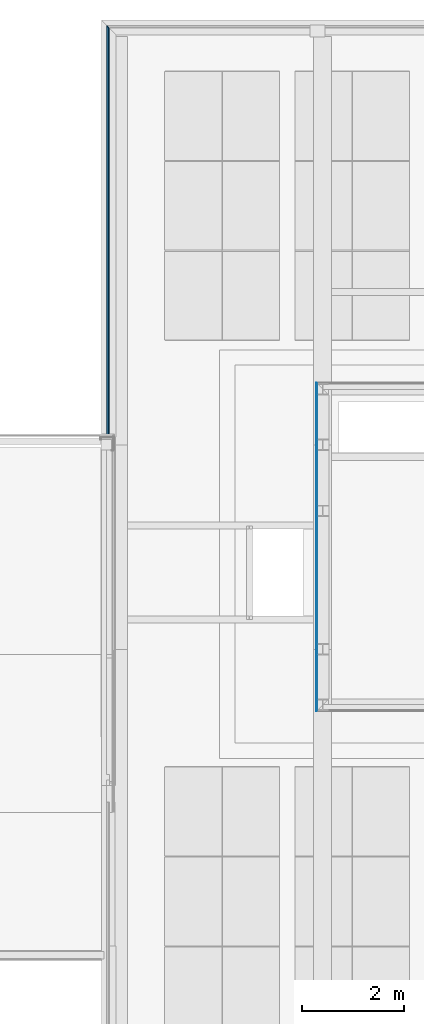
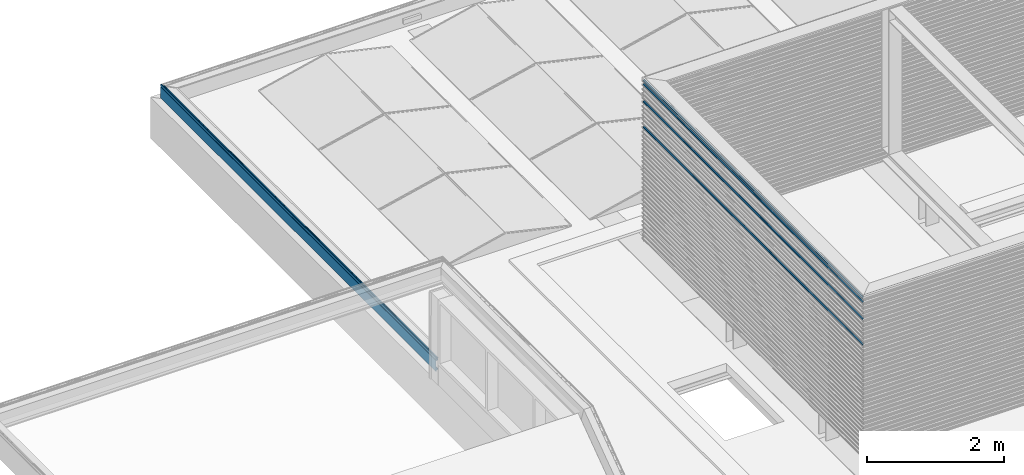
# One storey, part 28 of 63: 7 building element parts, 2 elements without a shape of their own.
"""IFC2X3 building model written with IfcOpenShell, lengths in millimetres."""

from ifc_helpers import new_model, entity, si_unit, converted_unit, derived_unit, money_unit, direction, frame, origin_with_axes, place, context, subcontext, project, spatial, faceted_brep, material, type_object, element, aggregate, save


model = new_model("IFC2X3")

# Units and contexts
model_context = context("Model", 3, precision=0.01, world=origin_with_axes(), true_north=direction((0.0, 1.0)))
body_context = subcontext(model_context, "Body", "Model", "MODEL_VIEW")
ifc_project = project(units=[si_unit("LENGTHUNIT", "METRE", prefix="MILLI"), si_unit("AREAUNIT", "SQUARE_METRE"), si_unit("VOLUMEUNIT", "CUBIC_METRE"), converted_unit("PLANEANGLEUNIT", "DEGREE", entity("IfcPlaneAngleMeasure", 0.0174532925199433), si_unit("PLANEANGLEUNIT", "RADIAN"), dimensions=[0, 0, 0, 0, 0, 0, 0]), money_unit("EUR"), converted_unit("TIMEUNIT", "Year", entity("IfcTimeMeasure", 31557600.0), si_unit("TIMEUNIT", "SECOND"), dimensions=[0, 0, 1, 0, 0, 0, 0]), si_unit("MASSUNIT", "GRAM", prefix="KILO"), si_unit("THERMODYNAMICTEMPERATUREUNIT", "DEGREE_CELSIUS"), si_unit("LUMINOUSINTENSITYUNIT", "LUMEN"), si_unit("ENERGYUNIT", "JOULE", prefix="MEGA"), derived_unit("THERMALCONDUCTANCEUNIT", [(si_unit("POWERUNIT", "WATT"), 1), (si_unit("LENGTHUNIT", "METRE"), -1), (si_unit("THERMODYNAMICTEMPERATUREUNIT", "KELVIN"), -1)]), derived_unit("SPECIFICHEATCAPACITYUNIT", [(si_unit("ENERGYUNIT", "JOULE"), 1), (si_unit("MASSUNIT", "GRAM", prefix="KILO"), -1), (si_unit("THERMODYNAMICTEMPERATUREUNIT", "KELVIN"), -1)]), derived_unit("MASSDENSITYUNIT", [(si_unit("MASSUNIT", "GRAM", prefix="KILO"), 1), (si_unit("VOLUMEUNIT", "CUBIC_METRE"), -1)])], contexts=[model_context])

# Site, building, storey
site_placement = place(None, origin_with_axes())
site = spatial("IfcSite", under=ifc_project, at=site_placement, Name="<site naam>", CompositionType="ELEMENT")
building_placement = place(site_placement, origin_with_axes())
building = spatial("IfcBuilding", under=site, at=building_placement, Name="<Naam gebouw>", CompositionType="ELEMENT")
storey_placement = place(building_placement, frame((0.0, 0.0, 12770.0), z_axis=(0.0, 0.0, 1.0), x_axis=(1.0, 0.0, 0.0)))
storey = spatial("IfcBuildingStorey", under=building, at=storey_placement, Name="04 4e verdieping", CompositionType="ELEMENT", Elevation=12770.0)

# Beam, building element parts
beam_type = type_object("IfcBeamType", Name="Aluminium daktrim 45 x 250", PredefinedType="BEAM")
beam_placement = place(storey_placement, frame((11665.00000242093, 20324.99999757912, -14.55215314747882), z_axis=(0.0, 0.0, 1.0), x_axis=(-1.0, 0.0, 0.0)))
beam = element("IfcBeam", 1, at=beam_placement, inside=storey, type_object=beam_type, Name="47_Balk_Aluminium", ObjectType="BEAM")
ifc_material_1 = material(Name="aluminium")
building_element_part_1_placement = place(beam_placement, origin_with_axes())
building_element_part_1 = element("IfcBuildingElementPart", 2, at=building_element_part_1_placement, material=ifc_material_1, Name="aluminium", context=body_context, shape_type="Brep", body=[
    faceted_brep([(-143.0058874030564, 8164.999997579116, 241.8720983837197), (-111.1979101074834, 8164.999997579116, 237.7678423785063), (-111.1979101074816, 111.1979101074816, 237.7678423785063), (-143.0058874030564, 143.0058874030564, 241.8720983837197), (-143.0058874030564, 8164.999997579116, 253.0654661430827), (-141.8058874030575, 8164.999997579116, 253.0654661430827), (-141.8058874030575, 8164.999997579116, 243.1686919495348), (-110.0058874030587, 8164.999997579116, 239.0654661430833), (-110.0058874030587, 8164.999997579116, 44.56563661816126), (-115.205887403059, 8164.999997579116, 44.56563661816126), (-115.205887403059, 8164.999997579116, 61.56563661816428), (-114.0058874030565, 8164.999997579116, 61.56563661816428), (-114.0058874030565, 8164.999997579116, 45.7656366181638), (-111.1979101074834, 8164.999997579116, 45.7656366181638), (-111.1979101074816, 111.1979101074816, 45.7656366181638), (-114.0058874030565, 114.0058874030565, 45.7656366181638), (-114.0058874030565, 114.0058874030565, 61.56563661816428), (-115.205887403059, 115.2058874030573, 61.56563661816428), (-115.205887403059, 115.2058874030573, 44.56563661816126), (-110.0058874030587, 110.0058874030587, 44.56563661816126), (-110.0058874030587, 110.0058874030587, 239.0654661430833), (-141.8058874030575, 141.8058874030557, 243.1686919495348), (-141.8058874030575, 141.8058874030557, 253.0654661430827), (-143.0058874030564, 143.0058874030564, 253.0654661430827)], [[[0, 1, 2, 3]], [[0, 4, 5, 6, 7, 8, 9, 10, 11, 12, 13, 1]], [[1, 13, 14, 2]], [[3, 2, 14, 15, 16, 17, 18, 19, 20, 21, 22, 23]], [[4, 0, 3, 23]], [[5, 4, 23, 22]], [[6, 5, 22, 21]], [[7, 6, 21, 20]], [[8, 7, 20, 19]], [[9, 8, 19, 18]], [[10, 9, 18, 17]], [[11, 10, 17, 16]], [[12, 11, 16, 15]], [[13, 12, 15, 14]]]),
])
building_element_part_2_placement = place(beam_placement, origin_with_axes())
building_element_part_2 = element("IfcBuildingElementPart", 3, at=building_element_part_2_placement, material=ifc_material_1, Name="aluminium", context=body_context, shape_type="Brep", body=[
    faceted_brep([(-112.0058939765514, 8164.999997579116, 49.56563034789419), (-112.0058939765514, 8164.999997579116, 69.56564503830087), (-112.0058939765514, 112.0058939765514, 69.56564503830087), (-112.0058939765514, 112.0058939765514, 49.56563034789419), (-113.2058874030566, 8164.999997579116, 49.56563034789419), (-113.2058874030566, 8164.999997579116, 68.55872432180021), (-145.0058874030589, 8164.999997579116, 74.16592230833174), (-145.0058874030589, 8164.999997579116, 89.56564503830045), (-143.8058874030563, 8164.999997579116, 89.56564503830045), (-143.8058874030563, 8164.999997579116, 75.17284186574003), (-143.8058874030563, 143.8058874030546, 75.17284186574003), (-143.8058874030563, 143.8058874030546, 89.56564503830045), (-145.0058874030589, 145.0058874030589, 89.56564503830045), (-145.0058874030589, 145.0058874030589, 74.16592230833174), (-113.2058874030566, 113.2058874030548, 68.55872432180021), (-113.2058874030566, 113.2058874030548, 49.56563034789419)], [[[0, 1, 2, 3]], [[0, 4, 5, 6, 7, 8, 9, 1]], [[1, 9, 10, 2]], [[3, 2, 10, 11, 12, 13, 14, 15]], [[4, 0, 3, 15]], [[5, 4, 15, 14]], [[6, 5, 14, 13]], [[7, 6, 13, 12]], [[8, 7, 12, 11]], [[9, 8, 11, 10]]]),
])
building_element_part_3_placement = place(beam_placement, origin_with_axes())
building_element_part_3 = element("IfcBuildingElementPart", 4, at=building_element_part_3_placement, material=ifc_material_1, Name="aluminium", context=body_context, shape_type="Brep", body=[
    faceted_brep([(-121.4991945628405, 8164.999997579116, 294.0656451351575), (-122.2068758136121, 8164.999997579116, 293.7721760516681), (-122.2068758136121, 122.2068758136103, 293.7721760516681), (-121.4991945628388, 121.4991945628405, 294.0656451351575), (-110.999194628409, 8164.999997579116, 294.0656451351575), (-110.2920878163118, 8164.999997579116, 293.7727519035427), (-109.999194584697, 8164.999997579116, 293.0656450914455), (-109.999194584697, 8164.999997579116, 250.0656451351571), (-110.2920878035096, 8164.999997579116, 249.3585383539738), (-110.9991945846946, 8164.999997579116, 249.0656451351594), (-111.4991731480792, 8164.999997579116, 249.1996073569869), (-117.6977781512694, 8164.999997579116, 252.7781690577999), (-117.9774779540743, 8164.999997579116, 253.1426342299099), (-117.9175736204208, 8164.999997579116, 253.598132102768), (-117.5531500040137, 8164.999997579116, 253.8778860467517), (-117.0976432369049, 8164.999997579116, 253.8180493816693), (-113.8976320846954, 8164.999997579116, 251.9718951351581), (-113.8976320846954, 8164.999997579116, 252.565645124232), (-113.7511854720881, 8164.999997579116, 252.9191985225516), (-113.3976320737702, 8164.999997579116, 253.0656451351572), (-113.1984133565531, 8164.999997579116, 253.0656451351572), (-112.8448599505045, 8164.999997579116, 252.9191985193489), (-112.6984133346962, 8164.999997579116, 252.5656451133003), (-112.6984133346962, 8164.999997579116, 251.278535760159), (-111.9489165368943, 8164.999997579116, 250.8452329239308), (-111.6116899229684, 8164.999997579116, 250.7856033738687), (-111.3150643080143, 8164.999997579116, 250.9567486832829), (-111.1979101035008, 8164.999997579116, 251.278544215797), (-111.1984133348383, 8164.999997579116, 281.0656535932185), (-111.3448629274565, 8164.999997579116, 281.419201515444), (-111.6984133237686, 8164.999997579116, 281.5656451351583), (-112.1984133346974, 8164.999997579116, 281.5656451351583), (-112.5519667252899, 8164.999997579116, 281.4191985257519), (-112.6984133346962, 8164.999997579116, 281.0656451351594), (-112.6984133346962, 8164.999997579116, 279.5656451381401), (-112.8448599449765, 8164.999997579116, 279.212091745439), (-113.1984133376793, 8164.999997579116, 279.065645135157), (-114.9718508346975, 8164.999997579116, 279.065645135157), (-120.1773366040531, 8164.999997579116, 275.7461395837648), (-120.3116945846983, 8164.999997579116, 275.4250201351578), (-120.5695070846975, 8164.999997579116, 275.3156451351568), (-120.8898195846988, 8164.999997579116, 275.448457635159), (-121.5401955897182, 8164.999997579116, 275.2060759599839), (-121.6945070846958, 8164.999997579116, 274.897676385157), (-121.9640383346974, 8164.999997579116, 274.8078326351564), (-122.2726320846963, 8164.999997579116, 274.9640826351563), (-128.1981216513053, 8164.999997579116, 274.066030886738), (-154.6486035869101, 8164.999997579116, 274.0656451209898), (-154.8951277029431, 8164.999997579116, 274.1677553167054), (-154.9972414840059, 8164.999997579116, 274.4142779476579), (-154.8947842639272, 8164.999997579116, 274.6611444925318), (-154.6476320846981, 8164.999997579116, 274.7629107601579), (-149.9991945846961, 8164.999997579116, 275.2648638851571), (-149.6984133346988, 8164.999997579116, 275.565645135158), (-147.2999758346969, 8164.999997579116, 275.565645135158), (-146.999194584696, 8164.999997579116, 275.2648638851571), (-143.9991945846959, 8164.999997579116, 275.2648638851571), (-143.6984133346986, 8164.999997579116, 275.565645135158), (-141.2999758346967, 8164.999997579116, 275.565645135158), (-140.9991945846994, 8164.999997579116, 275.2648638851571), (-137.9991945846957, 8164.999997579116, 275.2648638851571), (-137.6984133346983, 8164.999997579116, 275.565645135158), (-135.2999758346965, 8164.999997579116, 275.565645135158), (-134.9991945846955, 8164.999997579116, 275.2648638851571), (-131.9991945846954, 8164.999997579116, 275.2648638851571), (-131.6984133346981, 8164.999997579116, 275.565645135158), (-129.2999758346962, 8164.999997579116, 275.565645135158), (-128.9991945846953, 8164.999997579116, 275.2648638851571), (-128.1984107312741, 8164.999997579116, 275.2648638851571), (-120.0158638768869, 8164.999997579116, 277.1388822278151), (-113.4645529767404, 8164.999997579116, 282.3873432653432), (-112.6841977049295, 8164.999997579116, 282.7641787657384), (-112.19700300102, 8164.999997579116, 282.7648658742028), (-111.4908083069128, 8164.999997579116, 283.0582564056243), (-111.1984133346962, 8164.999997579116, 283.7648638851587), (-111.1984133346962, 8164.999997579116, 292.3664263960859), (-111.3448599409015, 8164.999997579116, 292.719979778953), (-111.6984133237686, 8164.999997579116, 292.8664263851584), (-120.7999758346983, 8164.999997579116, 292.8664263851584), (-121.1535292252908, 8164.999997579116, 292.7199797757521), (-121.2999758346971, 8164.999997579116, 292.3664263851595), (-121.2999758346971, 8164.999997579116, 290.6652544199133), (-121.4748532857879, 8164.999997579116, 290.2428198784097), (-121.897145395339, 8164.999997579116, 290.0675987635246), (-122.3197220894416, 8164.999997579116, 290.2421324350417), (-122.4952867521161, 8164.999997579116, 290.6642818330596), (-122.4991919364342, 8164.999997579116, 293.0640177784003), (-122.4991919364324, 122.4991919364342, 293.0640177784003), (-122.4952867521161, 122.4952867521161, 290.6642818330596), (-122.3197220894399, 122.3197220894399, 290.2421324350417), (-121.8971453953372, 121.8971453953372, 290.0675987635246), (-121.4748532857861, 121.4748532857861, 290.2428198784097), (-121.2999758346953, 121.2999758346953, 290.6652544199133), (-121.2999758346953, 121.2999758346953, 292.3664263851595), (-121.153529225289, 121.153529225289, 292.7199797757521), (-120.7999758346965, 120.7999758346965, 292.8664263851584), (-111.6984133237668, 111.6984133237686, 292.8664263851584), (-111.3448599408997, 111.3448599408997, 292.719979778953), (-111.1984133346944, 111.1984133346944, 292.3664263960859), (-111.1984133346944, 111.1984133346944, 283.7648638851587), (-111.490808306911, 111.490808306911, 283.0582564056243), (-112.1970030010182, 112.1970030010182, 282.7648658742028), (-112.6841977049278, 112.6841977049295, 282.7641787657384), (-113.4645529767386, 113.4645529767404, 282.3873432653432), (-120.0158638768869, 120.0158638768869, 277.1388822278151), (-128.1984107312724, 128.1984107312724, 275.2648638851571), (-128.9991945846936, 128.9991945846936, 275.2648638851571), (-129.2999758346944, 129.2999758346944, 275.565645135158), (-131.6984133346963, 131.6984133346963, 275.565645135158), (-131.9991945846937, 131.9991945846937, 275.2648638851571), (-134.9991945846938, 134.9991945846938, 275.2648638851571), (-135.2999758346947, 135.2999758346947, 275.565645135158), (-137.6984133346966, 137.6984133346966, 275.565645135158), (-137.9991945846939, 137.9991945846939, 275.2648638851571), (-140.9991945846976, 140.9991945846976, 275.2648638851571), (-141.2999758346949, 141.2999758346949, 275.565645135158), (-143.6984133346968, 143.6984133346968, 275.565645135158), (-143.9991945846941, 143.9991945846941, 275.2648638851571), (-146.9991945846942, 146.9991945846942, 275.2648638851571), (-147.2999758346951, 147.2999758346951, 275.565645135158), (-149.698413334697, 149.698413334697, 275.565645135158), (-149.9991945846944, 149.9991945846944, 275.2648638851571), (-154.6476320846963, 154.6476320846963, 274.7629107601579), (-154.8947842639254, 154.8947842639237, 274.6611444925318), (-154.9972414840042, 154.9972414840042, 274.4142779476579), (-154.8951277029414, 154.8951277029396, 274.1677553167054), (-154.6486035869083, 154.6486035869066, 274.0656451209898), (-128.1981216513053, 128.1981216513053, 274.066030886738), (-122.2726320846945, 122.2726320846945, 274.9640826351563), (-121.9640383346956, 121.9640383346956, 274.8078326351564), (-121.694507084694, 121.694507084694, 274.897676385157), (-121.5401955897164, 121.5401955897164, 275.2060759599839), (-120.889819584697, 120.889819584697, 275.448457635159), (-120.5695070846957, 120.5695070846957, 275.3156451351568), (-120.3116945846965, 120.3116945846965, 275.4250201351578), (-120.1773366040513, 120.1773366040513, 275.7461395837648), (-114.9718508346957, 114.9718508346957, 279.065645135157), (-113.1984133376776, 113.1984133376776, 279.065645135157), (-112.8448599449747, 112.8448599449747, 279.212091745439), (-112.6984133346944, 112.6984133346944, 279.5656451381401), (-112.6984133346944, 112.6984133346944, 281.0656451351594), (-112.5519667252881, 112.5519667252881, 281.4191985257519), (-112.1984133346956, 112.1984133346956, 281.5656451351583), (-111.6984133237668, 111.6984133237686, 281.5656451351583), (-111.3448629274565, 111.3448629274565, 281.419201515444), (-111.1984133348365, 111.1984133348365, 281.0656535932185), (-111.1979101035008, 111.1979101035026, 251.278544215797), (-111.3150643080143, 111.3150643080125, 250.9567486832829), (-111.6116899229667, 111.6116899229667, 250.7856033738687), (-111.9489165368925, 111.9489165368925, 250.8452329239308), (-112.6984133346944, 112.6984133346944, 251.278535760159), (-112.6984133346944, 112.6984133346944, 252.5656451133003), (-112.8448599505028, 112.8448599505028, 252.9191985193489), (-113.1984133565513, 113.1984133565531, 253.0656451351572), (-113.3976320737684, 113.3976320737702, 253.0656451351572), (-113.7511854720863, 113.7511854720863, 252.9191985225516), (-113.8976320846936, 113.8976320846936, 252.565645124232), (-113.8976320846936, 113.8976320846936, 251.9718951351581), (-117.0976432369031, 117.0976432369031, 253.8180493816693), (-117.5531500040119, 117.5531500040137, 253.8778860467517), (-117.917573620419, 117.9175736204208, 253.598132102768), (-117.9774779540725, 117.9774779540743, 253.1426342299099), (-117.6977781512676, 117.6977781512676, 252.7781690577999), (-111.4991731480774, 111.4991731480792, 249.1996073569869), (-110.9991945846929, 110.9991945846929, 249.0656451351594), (-110.2920878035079, 110.2920878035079, 249.3585383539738), (-109.9991945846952, 109.9991945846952, 250.0656451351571), (-109.9991945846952, 109.9991945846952, 293.0656450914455), (-110.2920878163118, 110.2920878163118, 293.7727519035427), (-110.9991946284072, 110.999194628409, 294.0656451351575)], [[[0, 1, 2, 3]], [[0, 4, 5, 6, 7, 8, 9, 10, 11, 12, 13, 14, 15, 16, 17, 18, 19, 20, 21, 22, 23, 24, 25, 26, 27, 28, 29, 30, 31, 32, 33, 34, 35, 36, 37, 38, 39, 40, 41, 42, 43, 44, 45, 46, 47, 48, 49, 50, 51, 52, 53, 54, 55, 56, 57, 58, 59, 60, 61, 62, 63, 64, 65, 66, 67, 68, 69, 70, 71, 72, 73, 74, 75, 76, 77, 78, 79, 80, 81, 82, 83, 84, 85, 86, 1]], [[1, 86, 87, 2]], [[3, 2, 87, 88, 89, 90, 91, 92, 93, 94, 95, 96, 97, 98, 99, 100, 101, 102, 103, 104, 105, 106, 107, 108, 109, 110, 111, 112, 113, 114, 115, 116, 117, 118, 119, 120, 121, 122, 123, 124, 125, 126, 127, 128, 129, 130, 131, 132, 133, 134, 135, 136, 137, 138, 139, 140, 141, 142, 143, 144, 145, 146, 147, 148, 149, 150, 151, 152, 153, 154, 155, 156, 157, 158, 159, 160, 161, 162, 163, 164, 165, 166, 167, 168, 169]], [[4, 0, 3, 169]], [[5, 4, 169, 168]], [[6, 5, 168, 167]], [[7, 6, 167, 166]], [[8, 7, 166, 165]], [[9, 8, 165, 164]], [[10, 9, 164, 163]], [[11, 10, 163, 162]], [[12, 11, 162, 161]], [[13, 12, 161, 160]], [[14, 13, 160, 159]], [[15, 14, 159, 158]], [[16, 15, 158, 157]], [[17, 16, 157, 156]], [[18, 17, 156, 155]], [[19, 18, 155, 154]], [[20, 19, 154, 153]], [[21, 20, 153, 152]], [[22, 21, 152, 151]], [[23, 22, 151, 150]], [[24, 23, 150, 149]], [[25, 24, 149, 148]], [[26, 25, 148, 147]], [[27, 26, 147, 146]], [[28, 27, 146, 145]], [[29, 28, 145, 144]], [[30, 29, 144, 143]], [[31, 30, 143, 142]], [[32, 31, 142, 141]], [[33, 32, 141, 140]], [[34, 33, 140, 139]], [[35, 34, 139, 138]], [[36, 35, 138, 137]], [[37, 36, 137, 136]], [[38, 37, 136, 135]], [[39, 38, 135, 134]], [[40, 39, 134, 133]], [[41, 40, 133, 132]], [[42, 41, 132, 131]], [[43, 42, 131, 130]], [[44, 43, 130, 129]], [[45, 44, 129, 128]], [[46, 45, 128, 127]], [[47, 46, 127, 126]], [[48, 47, 126, 125]], [[49, 48, 125, 124]], [[50, 49, 124, 123]], [[51, 50, 123, 122]], [[52, 51, 122, 121]], [[53, 52, 121, 120]], [[54, 53, 120, 119]], [[55, 54, 119, 118]], [[56, 55, 118, 117]], [[57, 56, 117, 116]], [[58, 57, 116, 115]], [[59, 58, 115, 114]], [[60, 59, 114, 113]], [[61, 60, 113, 112]], [[62, 61, 112, 111]], [[63, 62, 111, 110]], [[64, 63, 110, 109]], [[65, 64, 109, 108]], [[66, 65, 108, 107]], [[67, 66, 107, 106]], [[68, 67, 106, 105]], [[69, 68, 105, 104]], [[70, 69, 104, 103]], [[71, 70, 103, 102]], [[72, 71, 102, 101]], [[73, 72, 101, 100]], [[74, 73, 100, 99]], [[75, 74, 99, 98]], [[76, 75, 98, 97]], [[77, 76, 97, 96]], [[78, 77, 96, 95]], [[79, 78, 95, 94]], [[80, 79, 94, 93]], [[81, 80, 93, 92]], [[82, 81, 92, 91]], [[83, 82, 91, 90]], [[84, 83, 90, 89]], [[85, 84, 89, 88]], [[86, 85, 88, 87]]]),
])
aggregate(beam, [building_element_part_1, building_element_part_2, building_element_part_3])

# Wall, building element parts
wall_type = type_object("IfcWallType", Name="Gevelbeplating golf 18 x 2900", PredefinedType="NOTDEFINED")
wall_placement = place(storey_placement, frame((15871.99992141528, 13218.00009009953, 299.9552842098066), z_axis=(0.0, 0.0, 1.0), x_axis=(0.0, -1.0, 0.0)))
wall = element("IfcWall", 5, at=wall_placement, inside=storey, type_object=wall_type, Name="47_Binnenwand_Gevelbeplating")
ifc_material_2 = material(Name="gevelafwerking type 3 - Aluminium RAL1036")
building_element_part_4_placement = place(wall_placement, origin_with_axes())
building_element_part_4 = element("IfcBuildingElementPart", 6, at=building_element_part_4_placement, material=ifc_material_2, Name="gevelafwerking type 3 - Aluminium RAL1036", context=body_context, shape_type="Brep", body=[
    faceted_brep([(15.62919381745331, 15.62919381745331, 2497.3155113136), (17.99993094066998, 17.99993094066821, 2507.999999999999), (6418.000237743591, 17.99993094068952, 2507.999999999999), (6420.37097486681, 15.62919381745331, 2497.3155113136), (17.99993094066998, 16.99992855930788, 2507.999999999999), (15.62919381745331, 14.54414811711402, 2497.3155113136), (15.69993608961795, 14.77512803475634, 2497.634334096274), (6418.000237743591, 16.99992855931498, 2507.999999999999), (6420.300232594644, 14.77512803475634, 2497.634334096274), (6420.37097486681, 14.54414811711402, 2497.3155113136), (9.041514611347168, 9.04151461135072, 2488.57587884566), (6426.958654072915, 9.041514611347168, 2488.57587884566), (9.041514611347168, 8.209463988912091, 2488.57587884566), (9.398071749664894, 8.555183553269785, 2489.04891012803), (6426.602096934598, 8.555183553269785, 2489.04891012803), (6426.958654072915, 8.209463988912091, 2488.57587884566), (3.116409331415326, 3.116409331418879, 2480.112325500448), (6432.883759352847, 3.116409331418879, 2480.112325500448), (3.116409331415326, 2.188155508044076, 2480.112325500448), (3.340072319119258, 2.257289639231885, 2480.431810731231), (6432.660096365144, 2.257289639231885, 2480.431810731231), (6432.883759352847, 2.188155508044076, 2480.112325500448), (0.9999309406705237, 0.9999309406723, 2469.999999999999), (6435.000237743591, 0.9999309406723, 2469.999999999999), (0.9999309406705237, -6.905932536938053e-05, 2469.999999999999), (6435.000237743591, -6.905932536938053e-05, 2469.999999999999)], [[[0, 1, 2, 3]], [[4, 1, 0, 5, 6]], [[1, 4, 7, 2]], [[3, 2, 7, 8, 9]], [[10, 0, 3, 11]], [[0, 10, 12, 13, 5]], [[5, 13, 14, 9, 8, 6]], [[4, 6, 8, 7]], [[11, 3, 9, 14, 15]], [[16, 10, 11, 17]], [[10, 16, 18, 19, 12]], [[12, 19, 20, 15, 14, 13]], [[17, 11, 15, 20, 21]], [[22, 16, 17, 23]], [[16, 22, 24, 18]], [[18, 24, 25, 21, 20, 19]], [[23, 17, 21, 25]], [[24, 22, 23, 25]]]),
])
building_element_part_5_placement = place(wall_placement, origin_with_axes())
building_element_part_5 = element("IfcBuildingElementPart", 7, at=building_element_part_5_placement, material=ifc_material_2, Name="gevelafwerking type 3 - Aluminium RAL1036", context=body_context, shape_type="Brep", body=[
    faceted_brep([(6420.370984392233, 15.62918429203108, 2877.315511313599), (15.62918429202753, 15.62918429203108, 2877.315511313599), (17.99992141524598, 17.99992141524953, 2888.0), (6418.000247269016, 17.99992141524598, 2888.0), (6426.958663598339, 9.041505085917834, 2868.575878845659), (9.041505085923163, 9.041505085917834, 2868.575878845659), (15.69991796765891, 14.77511850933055, 2877.634295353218), (17.99992141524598, 16.99991903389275, 2888.0), (15.62918429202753, 14.54416666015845, 2877.315511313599), (6418.000247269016, 16.99991903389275, 2888.0), (6420.370984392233, 14.54416666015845, 2877.315511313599), (6420.300250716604, 14.775118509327, 2877.634295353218), (6432.883768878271, 3.116399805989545, 2860.112325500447), (3.116399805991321, 3.116399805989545, 2860.112325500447), (9.041505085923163, 8.20948277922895, 2868.575878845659), (9.398033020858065, 8.555174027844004, 2869.048871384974), (6426.958663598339, 8.20948277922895, 2868.575878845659), (6426.602135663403, 8.555174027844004, 2869.048871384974), (6435.000247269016, 0.9999214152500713, 2850.0), (0.9999214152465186, 0.9999214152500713, 2850.0), (3.116399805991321, 2.188154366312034, 2860.112325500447), (3.34003567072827, 2.257280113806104, 2860.431771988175), (6432.883768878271, 2.188154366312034, 2860.112325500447), (6432.660133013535, 2.257280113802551, 2860.431771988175), (6435.000247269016, -7.858475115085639e-05, 2850.0), (0.9999214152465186, -7.858475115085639e-05, 2850.0)], [[[0, 1, 2, 3]], [[4, 5, 1, 0]], [[6, 7, 2, 1, 8]], [[3, 2, 7, 9]], [[10, 0, 3, 9, 11]], [[12, 13, 5, 4]], [[8, 1, 5, 14, 15]], [[16, 4, 0, 10, 17]], [[9, 7, 6, 11]], [[6, 8, 15, 17, 10, 11]], [[18, 19, 13, 12]], [[14, 5, 13, 20, 21]], [[22, 12, 4, 16, 23]], [[15, 14, 21, 23, 16, 17]], [[24, 25, 19, 18]], [[20, 13, 19, 25]], [[24, 18, 12, 22]], [[21, 20, 25, 24, 22, 23]]]),
])
building_element_part_6_placement = place(wall_placement, origin_with_axes())
building_element_part_6 = element("IfcBuildingElementPart", 8, at=building_element_part_6_placement, material=ifc_material_2, Name="gevelafwerking type 3 - Aluminium RAL1036", context=body_context, shape_type="Brep", body=[
    faceted_brep([(15.62918667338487, 15.62918667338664, 2801.315511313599), (17.99992379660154, 17.99992379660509, 2812.0), (6418.000244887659, 17.99992379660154, 2812.0), (6420.370982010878, 15.62918667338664, 2801.315511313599), (17.99992379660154, 16.99992141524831, 2812.0), (15.62918667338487, 14.54415716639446, 2801.315511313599), (15.69992398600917, 14.77512089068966, 2801.634311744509), (6418.000244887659, 16.99992141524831, 2812.0), (6420.300244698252, 14.77512089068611, 2801.634311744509), (6420.370982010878, 14.54415716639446, 2801.315511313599), (9.04150746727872, 9.041507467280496, 2792.575878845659), (6426.958661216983, 9.041507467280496, 2792.575878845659), (9.04150746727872, 8.209473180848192, 2792.575878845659), (9.398047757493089, 8.555176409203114, 2793.048887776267), (6426.60212092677, 8.555176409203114, 2793.048887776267), (6426.958661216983, 8.209473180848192, 2792.575878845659), (3.116402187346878, 3.116402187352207, 2784.112325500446), (6432.883766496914, 3.116402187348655, 2784.112325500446), (3.116402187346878, 2.188153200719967, 2784.112325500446), (3.340049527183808, 2.257282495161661, 2784.431788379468), (6432.660119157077, 2.257282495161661, 2784.431788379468), (6432.883766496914, 2.188153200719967, 2784.112325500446), (0.9999237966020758, 0.9999237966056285, 2773.999999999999), (6435.00024488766, 0.9999237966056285, 2773.999999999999), (0.9999237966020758, -7.620339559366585e-05, 2773.999999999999), (6435.00024488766, -7.620339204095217e-05, 2773.999999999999)], [[[0, 1, 2, 3]], [[4, 1, 0, 5, 6]], [[1, 4, 7, 2]], [[3, 2, 7, 8, 9]], [[10, 0, 3, 11]], [[0, 10, 12, 13, 5]], [[5, 13, 14, 9, 8, 6]], [[4, 6, 8, 7]], [[11, 3, 9, 14, 15]], [[16, 10, 11, 17]], [[10, 16, 18, 19, 12]], [[12, 19, 20, 15, 14, 13]], [[17, 11, 15, 20, 21]], [[22, 16, 17, 23]], [[16, 22, 24, 18]], [[18, 24, 25, 21, 20, 19]], [[23, 17, 21, 25]], [[24, 22, 23, 25]]]),
])
building_element_part_7_placement = place(wall_placement, origin_with_axes())
building_element_part_7 = element("IfcBuildingElementPart", 9, at=building_element_part_7_placement, material=ifc_material_2, Name="gevelafwerking type 3 - Aluminium RAL1036", context=body_context, shape_type="Brep", body=[
    faceted_brep([(15.62920810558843, 15.62920810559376, 2041.315511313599), (17.99994522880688, 17.99994522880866, 2052.0), (6418.000223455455, 17.99994522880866, 2052.0), (6420.370960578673, 15.62920810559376, 2041.315511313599), (17.99994522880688, 16.99994284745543, 2052.0), (15.62920810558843, 14.54418507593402, 2041.315511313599), (15.69994343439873, 14.77514232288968, 2041.634302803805), (6418.000223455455, 16.99994284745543, 2052.0), (6420.300225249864, 14.77514232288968, 2041.634302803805), (6420.370960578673, 14.54418507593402, 2041.315511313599), (9.041528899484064, 9.041528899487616, 2032.575878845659), (6426.958639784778, 9.041528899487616, 2032.575878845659), (9.041528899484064, 8.209501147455, 2032.575878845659), (9.39806245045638, 8.555197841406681, 2033.048878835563), (6426.602106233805, 8.555197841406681, 2033.048878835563), (6426.958639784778, 8.209501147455, 2032.575878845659), (3.116423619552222, 3.116423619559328, 2024.112325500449), (6432.88374506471, 3.116423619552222, 2024.112325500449), (3.116423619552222, 2.188176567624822, 2024.112325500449), (3.340064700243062, 2.257303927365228, 2024.431779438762), (6432.660103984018, 2.257303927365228, 2024.431779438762), (6432.88374506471, 2.188176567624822, 2024.112325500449), (0.9999452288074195, 0.9999452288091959, 2013.999999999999), (6435.000223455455, 0.9999452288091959, 2013.999999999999), (0.9999452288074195, -5.477119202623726e-05, 2013.999999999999), (6435.000223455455, -5.477119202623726e-05, 2013.999999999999)], [[[0, 1, 2, 3]], [[4, 1, 0, 5, 6]], [[1, 4, 7, 2]], [[3, 2, 7, 8, 9]], [[10, 0, 3, 11]], [[0, 10, 12, 13, 5]], [[5, 13, 14, 9, 8, 6]], [[4, 6, 8, 7]], [[11, 3, 9, 14, 15]], [[16, 10, 11, 17]], [[10, 16, 18, 19, 12]], [[12, 19, 20, 15, 14, 13]], [[17, 11, 15, 20, 21]], [[22, 16, 17, 23]], [[16, 22, 24, 18]], [[18, 24, 25, 21, 20, 19]], [[23, 17, 21, 25]], [[24, 22, 23, 25]]]),
])
aggregate(wall, [building_element_part_4, building_element_part_5, building_element_part_6, building_element_part_7])

save(model, "model.ifc")
